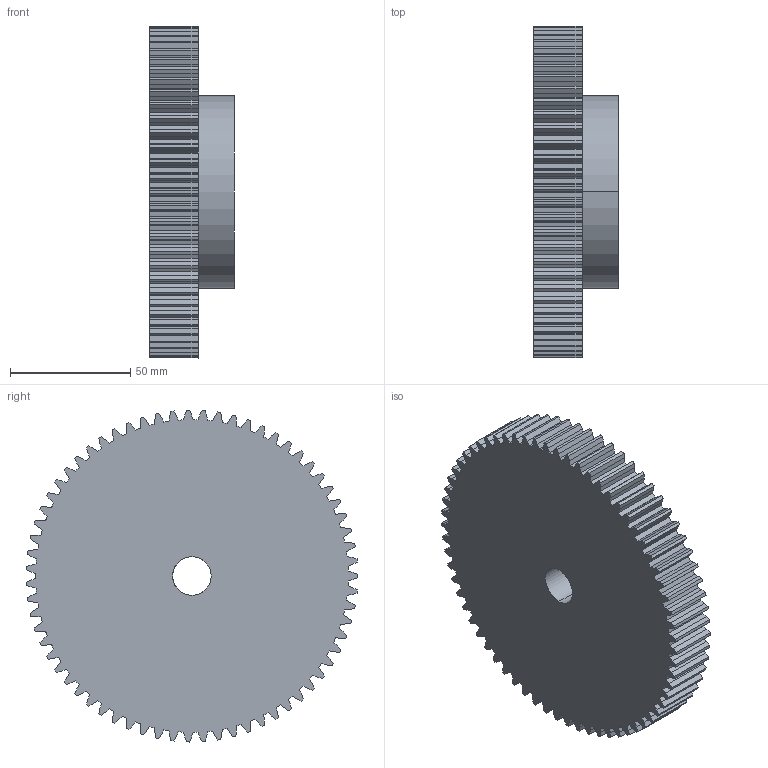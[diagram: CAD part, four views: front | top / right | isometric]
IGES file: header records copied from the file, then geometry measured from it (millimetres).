
Start section: SolidWorks IGES file using analytic representation for surfaces
Global section: file name: C:\Users\Honza\Desktop\Matis (Hotove)\Èelní ozubená kola\PM\MODUL 2\PM 28067.IGS; native system: SolidWorks 2010; preprocessor: SolidWorks 2010; author: Honza; date: 130925.110622; units: millimetre
Bounding box: 35 x 137.95 x 137.99 mm (x, y, z)
Surface area: 49060.5 mm2 (no closed solid volume)
Topology: 0 solids, 0 shells, 409 faces, 2666 edges, 2666 vertices
Faces by surface type: bspline 271, revolution 138
